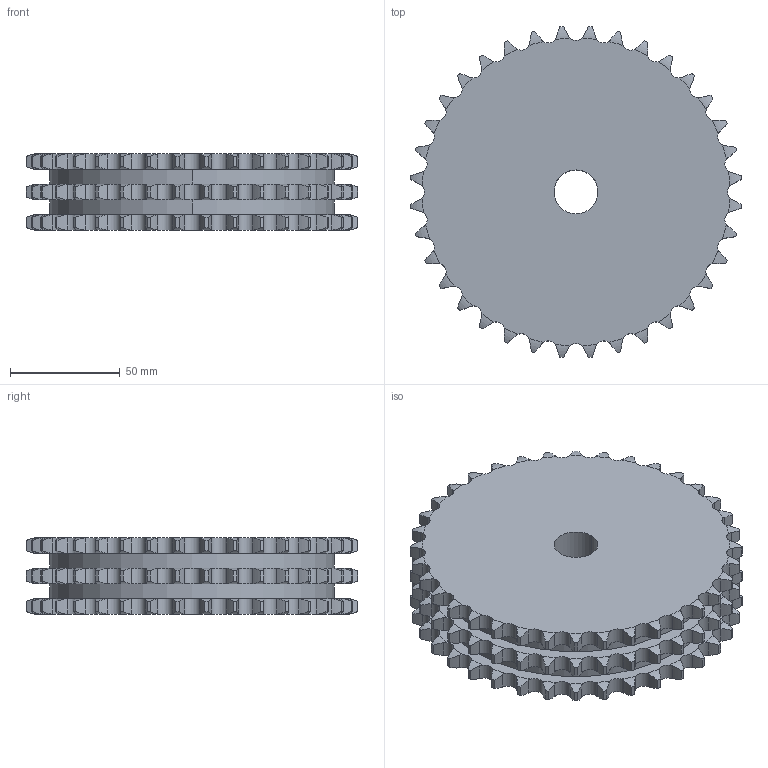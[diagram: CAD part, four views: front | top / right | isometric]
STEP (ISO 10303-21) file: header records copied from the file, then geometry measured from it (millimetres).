
FILE_DESCRIPTION((''),'2;1');
FILE_NAME('500-203-0036_PRT','2021-02-12T',('Brieden'),('Brieden'),'PRO/ENGINEER BY PARAMETRIC TECHNOLOGY CORPORATION, 2010160','PRO/ENGINEER BY PARAMETRIC TECHNOLOGY CORPORATION, 2010160','');
FILE_SCHEMA(('AUTOMOTIVE_DESIGN { 1 0 10303 214 1 1 1 1 }'));
Length unit declared in the file: millimetre
Products named in the file (1): 500-203-0036_PRT
Bounding box: 150.78 x 150.78 x 34.9 mm (x, y, z)
Volume: 510880.9 mm3; surface area: 64737.1 mm2
Topology: 1 solids, 1 shells, 660 faces, 1962 edges, 1308 vertices
Faces by surface type: cylinder 438, torus 216, plane 6
Entity records: 32115 total; most frequent: CARTESIAN_POINT 9510, ORIENTED_EDGE 3924, DIRECTION 3078, PRESENTATION_STYLE_ASSIGNMENT 1963, STYLED_ITEM 1963, CURVE_STYLE 1962, EDGE_CURVE 1962, AXIS2_PLACEMENT_3D 1320
